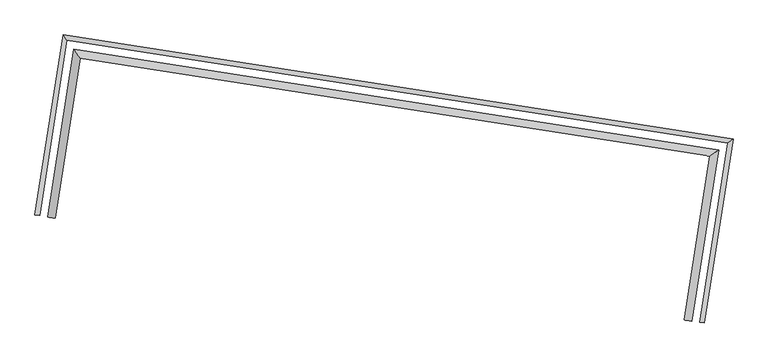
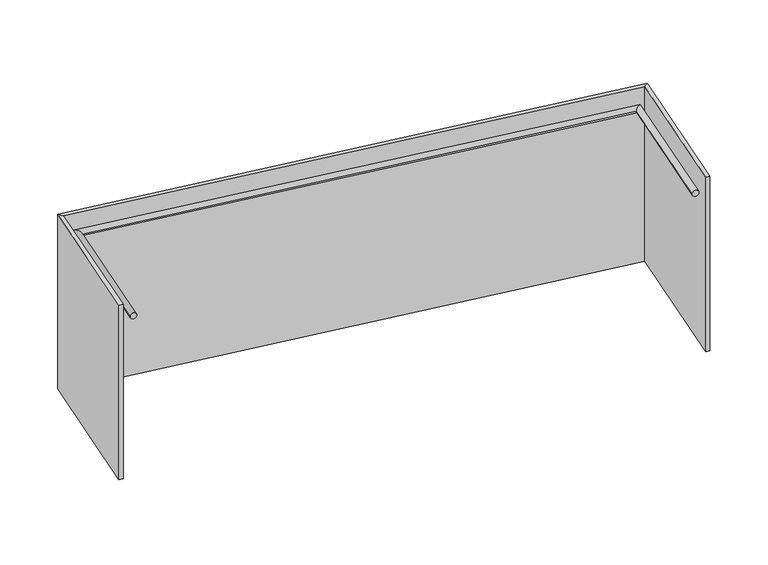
"""IFC4 building model written with IfcOpenShell, lengths in millimetres: railing geometry, Panel de vidrio - balcón."""

from ifc_helpers import new_model, si_unit, frame, origin, place, context, project, spatial, circle_curve, ellipse_curve, faceted_brep, source, transform, mapped, element, save
from ifc_brep_helpers import plane_surface, cylinder_surface, advanced_brep


def railing_c696ef67(model_context):
    return source(origin(), model_context, "Body", "SolidModel", [
        faceted_brep([(-39067.461429, -72420.8563486, 7345.385397), (-39092.1631617, -72417.0061016, 7345.385397), (-39092.1631617, -72417.0061016, 6145.385397), (-39067.461429, -72420.8563486, 6145.385397), (-38917.0081921, -71455.605117, 7345.385397), (-38945.5601718, -71476.4566026, 7345.385397), (-38945.5601718, -71476.4566026, 6145.385397), (-38917.0081921, -71455.605117, 6145.385397), (-42430.0683342, -70908.0261391, 7345.385397), (-42409.2168485, -70936.5781188, 7345.385397), (-42409.2168485, -70936.5781188, 6145.385397), (-42430.0683342, -70908.0261391, 6145.385397), (-42577.4413737, -71853.5159854, 7345.385397), (-42577.4413737, -71853.5159854, 6145.385397), (-42552.739641, -71857.3662324, 6145.385397), (-42552.739641, -71857.3662324, 7345.385397)], [[[0, 1, 2, 3]], [[1, 0, 4, 5]], [[2, 1, 5, 6]], [[3, 2, 6, 7]], [[0, 3, 7, 4]], [[5, 4, 8, 9]], [[6, 5, 9, 10]], [[7, 6, 10, 11]], [[4, 7, 11, 8]], [[12, 13, 14, 15]], [[9, 8, 12, 15]], [[10, 9, 15, 14]], [[11, 10, 14, 13]], [[8, 11, 13, 12]]]),
        advanced_brep(
        [(-39173.0923659, -72404.3917062, 7250.0), (-39133.5695936, -72410.5521014, 7250.0), (-39039.1037714, -71544.7714111, 7250.0), (-38993.4206039, -71511.4090341, 7250.0), (-42340.9020398, -71030.1217188, 7250.0), (-42374.2644169, -70984.4385512, 7250.0), (-42471.8104368, -71869.9806278, 7250.0), (-42511.3332091, -71863.8202327, 7250.0)],
        [
            (0, 1, circle_curve(frame((-39153.3309798, -72407.4719038, 7250.0), z_axis=(-0.15400987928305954, -0.9880693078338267, 0.0), x_axis=(0.9880693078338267, -0.15400987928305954, 0.0)), 20.0)),
            (1, 0, circle_curve(frame((-39153.3309798, -72407.4719038, 7250.0), z_axis=(-0.15400987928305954, -0.9880693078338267, 0.0), x_axis=(0.9880693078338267, -0.15400987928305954, 0.0)), 20.0)),
            (0, 2),
            (2, 3, ellipse_curve(frame((-39016.2621876, -71528.0902226, 7250.0), z_axis=(0.5897690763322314, -0.8075719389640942, 0.0), x_axis=(-0.8075719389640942, -0.5897690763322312, 0.0)), 28.2842712, 20.0)),
            (3, 1),
            (3, 2, ellipse_curve(frame((-39016.2621876, -71528.0902226, 7250.0), z_axis=(0.5897690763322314, -0.8075719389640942, 0.0), x_axis=(-0.8075719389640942, -0.5897690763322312, 0.0)), 28.2842712, 20.0)),
            (2, 4),
            (4, 5, ellipse_curve(frame((-42357.5832284, -71007.280135, 7250.0), z_axis=(0.8075719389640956, 0.5897690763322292, 0.0), x_axis=(0.5897690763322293, -0.8075719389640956, 0.0)), 28.2842713, 20.0)),
            (5, 3),
            (5, 4, ellipse_curve(frame((-42357.5832284, -71007.280135, 7250.0), z_axis=(0.8075719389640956, 0.5897690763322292, 0.0), x_axis=(0.5897690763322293, -0.8075719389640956, 0.0)), 28.2842713, 20.0)),
            (6, 7, circle_curve(frame((-42491.5718229, -71866.9004302, 7250.0), z_axis=(-0.15400987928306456, -0.988069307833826, 0.0), x_axis=(-0.988069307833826, 0.15400987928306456, 0.0)), 20.0)),
            (7, 6, circle_curve(frame((-42491.5718229, -71866.9004302, 7250.0), z_axis=(-0.15400987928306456, -0.988069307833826, 0.0), x_axis=(-0.988069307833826, 0.15400987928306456, 0.0)), 20.0)),
            (4, 6),
            (7, 5),
        ],
        [
            plane_surface(frame((-39153.3309798, -72407.4719038, 7250.0), z_axis=(-0.15400987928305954, -0.9880693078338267, 0.0), x_axis=(0.9880693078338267, -0.15400987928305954, 0.0))),
            cylinder_surface(frame((-39153.3309798, -72407.4719038, 7250.0), z_axis=(-0.15400987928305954, -0.9880693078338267, 0.0), x_axis=(0.9880693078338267, -0.15400987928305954, 0.0)), 20.0),
            cylinder_surface(frame((-39016.2621876, -71528.0902226, 7250.0), z_axis=(0.9880693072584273, -0.1540098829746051, 0.0), x_axis=(0.1540098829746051, 0.9880693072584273, 0.0)), 20.0),
            plane_surface(frame((-42491.5718229, -71866.9004302, 7250.0), z_axis=(-0.15400987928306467, -0.988069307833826, 0.0), x_axis=(0.988069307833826, -0.15400987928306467, 0.0))),
            cylinder_surface(frame((-42357.5832284, -71007.280135, 7250.0), z_axis=(0.15400987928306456, 0.988069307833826, 0.0), x_axis=(-0.988069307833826, 0.15400987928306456, 0.0)), 20.0),
        ],
        [
            (0, [[1, 2]]),
            (1, [[-1, 3, 4, 5]]),
            (1, [[-2, -5, 6, -3]]),
            (2, [[-4, 7, 8, 9]]),
            (2, [[-6, -9, 10, -7]]),
            (3, [[11, 12]]),
            (4, [[-8, 13, -12, 14]]),
            (4, [[-10, -14, -11, -13]]),
        ],
    ),
    ])


if __name__ == "__main__":
    model = new_model("IFC4")
    model_context = context("Model", 3, world=origin())
    ifc_project = project(units=[si_unit("LENGTHUNIT", "METRE", prefix="MILLI")], contexts=[model_context])
    site = spatial("IfcSite", under=ifc_project)
    building = spatial("IfcBuilding", under=site)
    placement = place(None, origin())
    railing_shape = railing_c696ef67(model_context)
    element("IfcRailing", 1, ObjectType="Panel de vidrio - balcón", at=placement, inside=building, context=model_context, shape_type="MappedRepresentation", body=[
        mapped(railing_shape, transform((0.0, 0.0, 0.0), x_axis=(1.0, 0.0, 0.0), y_axis=(0.0, 1.0, 0.0), z_axis=(0.0, 0.0, 1.0))),
    ])
    save(model, "model.ifc")
